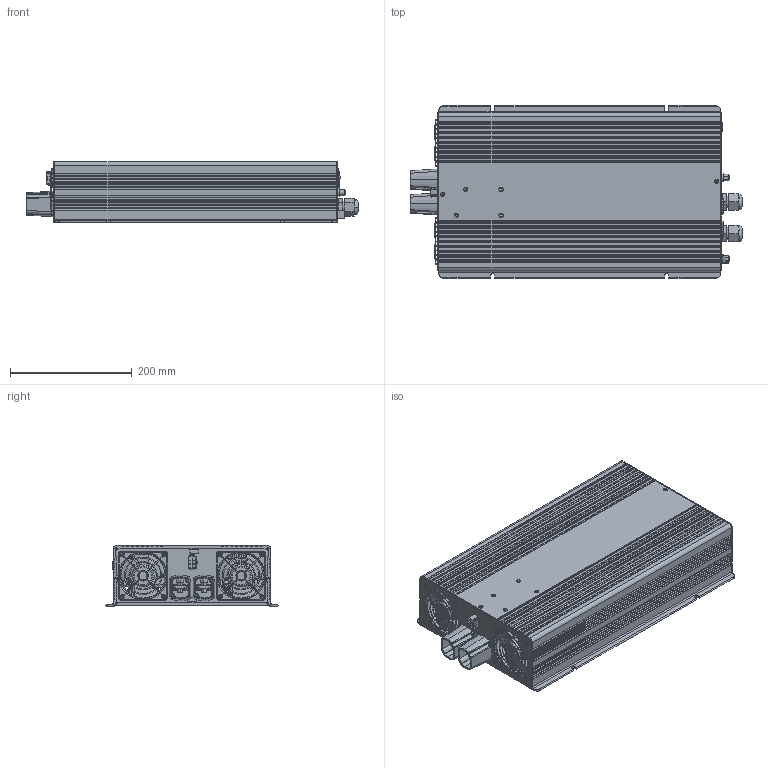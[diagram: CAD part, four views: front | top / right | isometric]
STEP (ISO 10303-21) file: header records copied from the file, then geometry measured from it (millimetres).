
FILE_DESCRIPTION(('OneSpaceDesigner STEP Export'),'2;1');
FILE_NAME('TN-3000.stp','2014-02-12T 9:47:48',(''),(''),'OneSpace Designer STEP processor for AP214 (Solid Model)','OneSpace Designer 13.20 11-May-2005 (C) CoCreate Software GmbH','');
FILE_SCHEMA(('AUTOMOTIVE_DESIGN { 1 0 10303 214 1 1 1 1 }'));
Length unit declared in the file: millimetre
Products named in the file (61): p1; p6; «á­±ªO; 4; M3-10LÁ³¬W.1.1.1.1.1; «e­±ªO²k¥ó.1; «e­±ªO; a3; RD0905007.STEP; a1; FAN-ALL.2.1; ­·®°; p1.1; ºÝ¤l; ºÝ¤l.1.1.1.1; 9002; ©T©w; breaker; ¹q®e; ±µ¦a»É¬W; ¥ª´¡ÀY¤Õ.1.1.1; on; pcb1; ±±¨îªOPCB; pcb-b; pcb2.1; M3-10LÁ³¬W.1.1.1.2.1.1; ¤U»\; breaker.1; all; mos2; mylr2; FAN; fan_3110kl_04w_b50; FADEFAU050264352885; SW3dPS-Fan Guard.STEP; FAN_71.2.1.1; CU1.1.2.1; GG.2.1.1.1; a1.1.1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
Assembly tree (86 placements, depth 5):
  ¤Ó¶\S\
  TN-3000
    FAN_71.2.1.1  x2
      SW3dPS-Fan Guard.STEP
        FADEFAU050264352885
      fan_3110kl_04w_b50
      FAN
    ­±ªO3
      M4X10LÁ³¬W.1  x2
    ­±ªO2
    FF
    FF.1
    a1.1.1  x2
      GG.2.1.1.1
      CU1.1.2.1
    «e­±ªO-2
      p6  x2
      M3-10LÁ³¬W.1.1.1.1.1  x4
    ºÝ¤l©T©w¬[
    BAT¥¿»ÉµP.1.1  x2
    R1
    300W
      JJJ
    ©T©wÅK
    ¨¾¤ô¿é¥X1  x2
    ¥ÐSD  x2
      FF.1
    ¤p¥dPCB
    ¤W»\
      up_case
    p2
    mylr2
    mos2
    all
      breaker.1
      ¤U»\
        M3-10LÁ³¬W.1.1.1.2.1.1
      pcb2.1
        pcb-b
      ±±¨îªOPCB
        pcb1
      on
      ¥ª´¡ÀY¤Õ.1.1.1
      ±µ¦a»É¬W
      ¹q®e
      breaker
      ©T©w
        9002
          ºÝ¤l.1.1.1.1  x5
          ºÝ¤l
          p1.1  x5
      ­·®°
        FAN-ALL.2.1  x2
    a1
    RD0905007.STEP
    a3
      «e­±ªO
        «e­±ªO²k¥ó.1
        p6  x2
        M3-10LÁ³¬W.1.1.1.1.1  x4
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Bounding box: 546.5 x 283.5 x 100 mm (x, y, z)
Volume: 1850875 mm3; surface area: 1084567.5 mm2
Topology: 59 solids, 65 shells, 3852 faces, 10275 edges, 6648 vertices
Faces by surface type: plane 1966, cylinder 1294, torus 246, bspline 168, cone 128, revolution 24, sphere 24, extrusion 2
Entity records: 107681 total; most frequent: CARTESIAN_POINT 34718, ORIENTED_EDGE 15483, DIRECTION 12728, EDGE_CURVE 7747, VERTEX_POINT 5049, VECTOR 4746, LINE 4744, AXIS2_PLACEMENT_3D 3985
